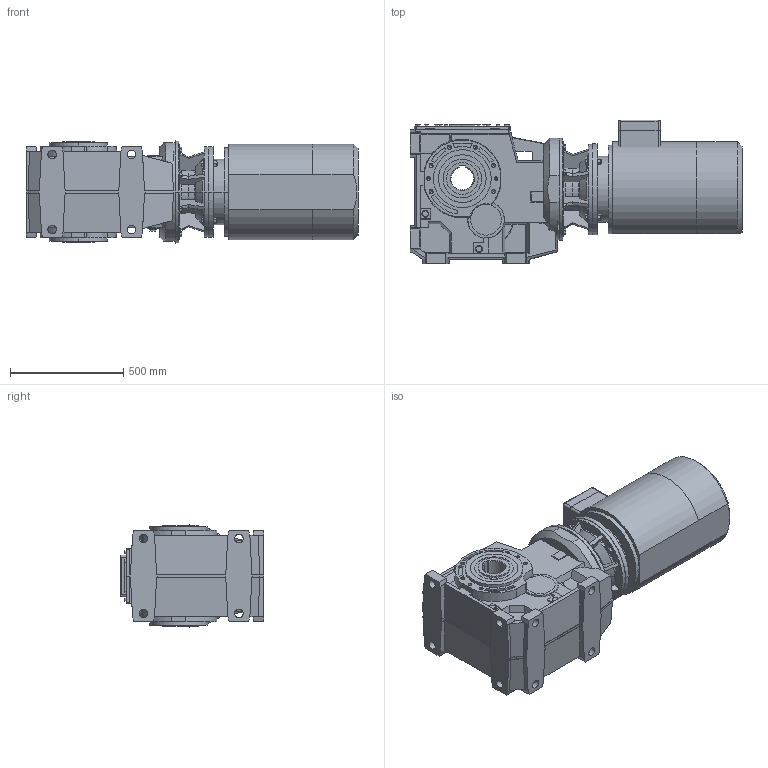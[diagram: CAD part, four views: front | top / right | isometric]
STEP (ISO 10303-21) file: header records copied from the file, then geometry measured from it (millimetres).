
FILE_DESCRIPTION( ( '' ), '1' );
FILE_NAME( '//expscmdclustefs.cadenas.external/client_exchange/iodir/jobs/output/wkb50801887_no0/STEP/B163UC8_89200_B5100000000T200L1_2_03.stp', '2012-11-06T01:37:38', ( '' ), ( '' ), ' ', ' ', ' ' );
FILE_SCHEMA( ( 'CONFIG_CONTROL_DESIGN' ) );
Length unit declared in the file: millimetre
Products named in the file (7): 1; 2; 3; 4; 5; 6; 7
Bounding box: 1463 x 633 x 449.9 mm (x, y, z)
Volume: 222367900.2 mm3; surface area: 5181785 mm2
Topology: 7 solids, 7 shells, 1112 faces, 2882 edges, 1861 vertices
Faces by surface type: plane 665, cylinder 242, cone 202, torus 3
Entity records: 33939 total; most frequent: CARTESIAN_POINT 6530, ORIENTED_EDGE 5700, DIRECTION 5615, EDGE_CURVE 2850, AXIS2_PLACEMENT_3D 1902, VERTEX_POINT 1861, LINE 1811, VECTOR 1811
